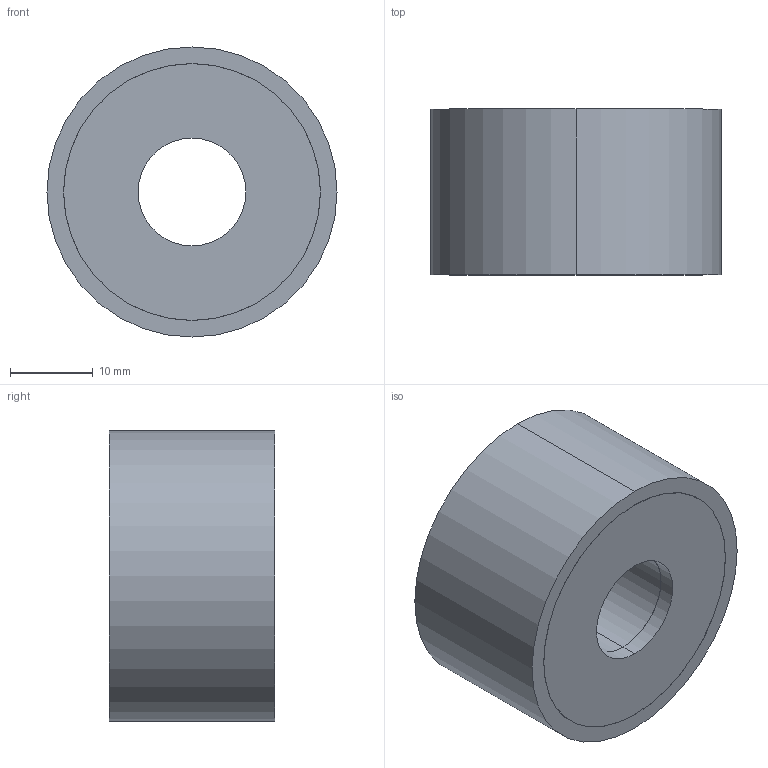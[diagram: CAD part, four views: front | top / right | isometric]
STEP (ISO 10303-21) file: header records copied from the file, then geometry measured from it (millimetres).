
FILE_DESCRIPTION (( 'STEP AP214' ), '1' );
FILE_NAME ('351-35-20-13-DD-55.step', '2025-07-23T10:12:34', ( '' ), ( '' ), 'SwSTEP 2.0', 'SolidWorks 2022', '' );
FILE_SCHEMA (( 'AUTOMOTIVE_DESIGN' ));
Length unit declared in the file: millimetre
Products named in the file (1): 351-35-20-13-DD-55
Bounding box: 35 x 20 x 35 mm (x, y, z)
Volume: 16587.6 mm3; surface area: 4680.2 mm2
Topology: 1 solids, 1 shells, 30 faces, 60 edges, 40 vertices
Faces by surface type: cylinder 20, plane 10
Entity records: 919 total; most frequent: DIRECTION 162, CARTESIAN_POINT 131, ORIENTED_EDGE 120, AXIS2_PLACEMENT_3D 71, EDGE_CURVE 60, CIRCLE 40, VERTEX_POINT 40, EDGE_LOOP 40
